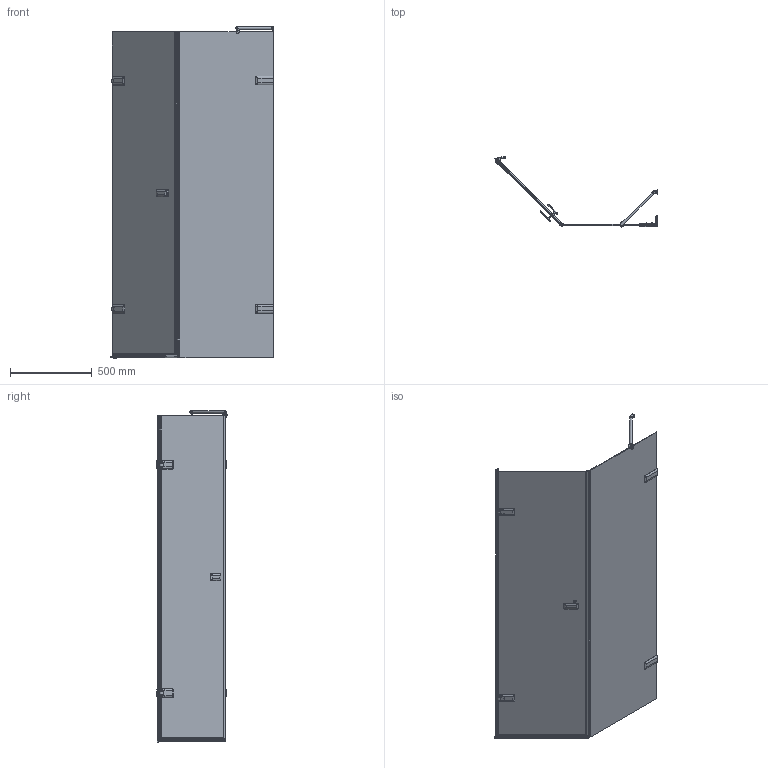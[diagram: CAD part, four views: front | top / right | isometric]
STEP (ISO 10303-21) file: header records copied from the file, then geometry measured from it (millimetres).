
FILE_DESCRIPTION(/* description */ (''),/* implementation_level */ '2;1');
FILE_NAME(/* name */ 'E:\Работа\Сергей\Душевые кабинки\! Работа\888\TREND DOOR GK-862BG135ONE\TREND DOOR GK-862BG135ONE левая модель\TREND DOOR GK-862BG135ONE ЛЕВАЯ-3D.stp',/* time_stamp */ '2018-04-23T20:51:34+03:00',/* author */ ('PC'),/* organization */ (''),/* preprocessor_version */ 'ST-DEVELOPER v15.2',/* originating_system */ 'Autodesk Inventor 2014',/* authorisation */ '');
FILE_SCHEMA (('AUTOMOTIVE_DESIGN { 1 0 10303 214 3 1 1 }'));
Length unit declared in the file: millimetre
Products named in the file (1): TREND DOOR GK-862BG135ONE ЛЕВАЯ-
3D
Bounding box: 1001.12 x 429.88 x 2035.5 mm (x, y, z)
Volume: 14754492.9 mm3; surface area: 5058443.8 mm2
Topology: 4 solids, 5 shells, 870 faces, 2446 edges, 1554 vertices
Faces by surface type: plane 499, cylinder 266, bspline 66, torus 27, sphere 10, cone 2
Full cylindrical faces by diameter (mm): 12 x3, 15 x1, 20 x2, 26 x1, 40 x2
Entity records: 31509 total; most frequent: CARTESIAN_POINT 8376, ORIENTED_EDGE 4762, DIRECTION 4457, EDGE_CURVE 2379, LINE 1667, VECTOR 1667, VERTEX_POINT 1544, AXIS2_PLACEMENT_3D 1395
